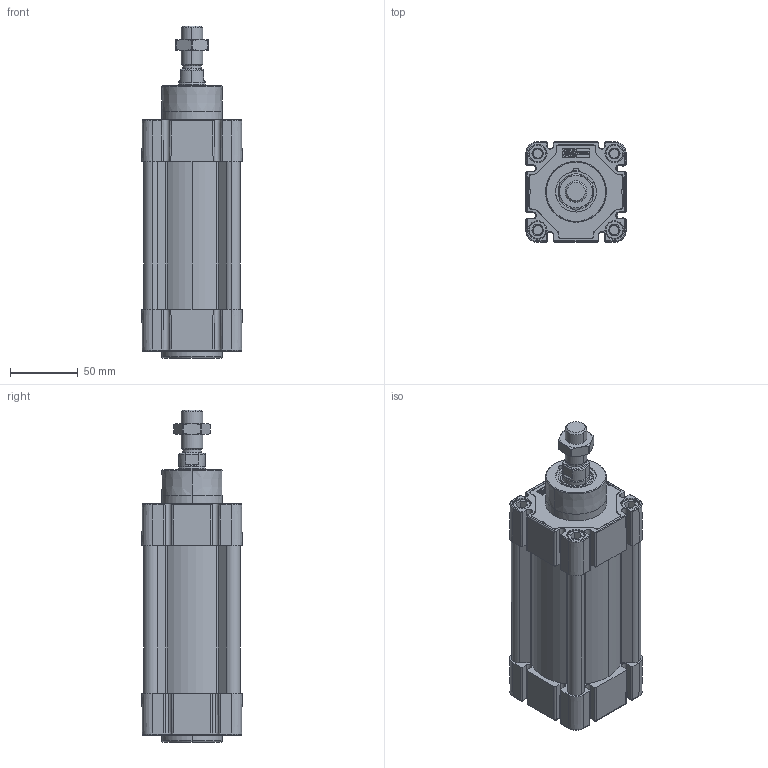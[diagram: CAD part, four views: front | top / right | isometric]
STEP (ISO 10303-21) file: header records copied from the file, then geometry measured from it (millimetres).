
FILE_DESCRIPTION (( 'STEP AP214' ), '1' );
FILE_NAME ('E11M20630050.STEP', '2021-10-27T08:26:47', ( '' ), ( '' ), 'SwSTEP 2.0', 'SolidWorks 2016', '' );
FILE_SCHEMA (( 'AUTOMOTIVE_DESIGN' ));
Length unit declared in the file: millimetre
Products named in the file (7): TA Ø63 ISO 15552 WEB; 000.533.7_000.533.0050; E11M20630050; 21.D01.0000_21.D01.0050; 21.752.0; Pistone Ø63 ISO 15552; TP Ø63 ISO 15552 WEB
Assembly tree (6 placements, depth 2):
  E11M20630050
    TP Ø63 ISO 15552 WEB
    TA Ø63 ISO 15552 WEB
    Pistone Ø63 ISO 15552
    21.D01.0000_21.D01.0050
    21.752.0
    000.533.7_000.533.0050
Bounding box: 73.97 x 73.98 x 245 mm (x, y, z)
Volume: 586361.1 mm3; surface area: 227328.6 mm2
Topology: 17 solids, 17 shells, 2070 faces, 5253 edges, 3213 vertices
Faces by surface type: cylinder 729, plane 682, bspline 284, cone 186, torus 151, sphere 38
Entity records: 87993 total; most frequent: CARTESIAN_POINT 20068, ORIENTED_EDGE 10352, DIRECTION 9688, EDGE_CURVE 5176, AXIS2_PLACEMENT_3D 3633, VERTEX_POINT 3213, VECTOR 2422, LINE 2422
